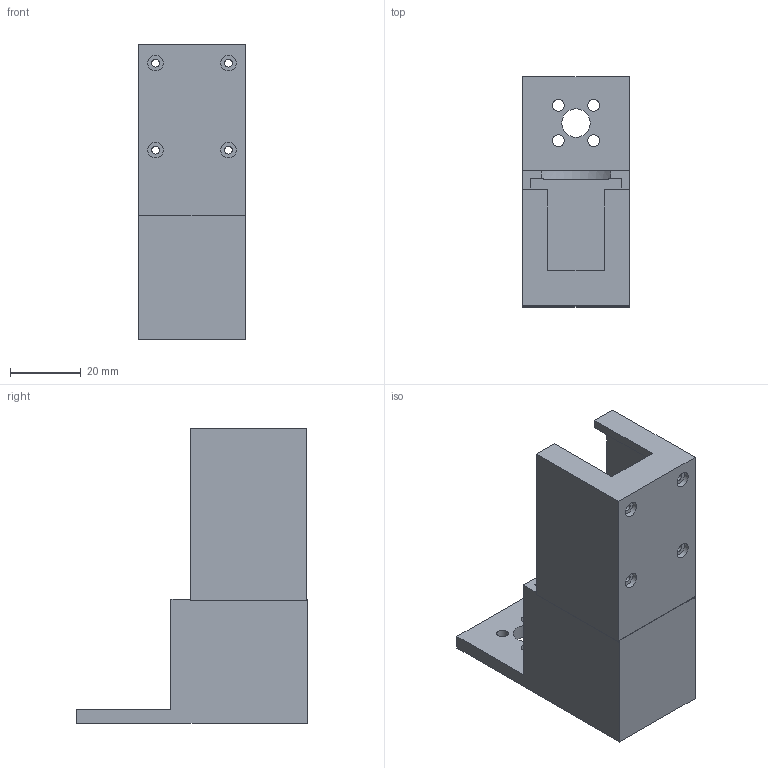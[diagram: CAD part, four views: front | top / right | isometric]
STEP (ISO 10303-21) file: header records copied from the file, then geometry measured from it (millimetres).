
FILE_DESCRIPTION(('Open CASCADE Model'),'2;1');
FILE_NAME('Open CASCADE Shape Model','2026-10-02T23:27:49',('Author'),( 'Open CASCADE'),'Open CASCADE STEP processor 7.9','Open CASCADE 7.9' ,'Unknown');
FILE_SCHEMA(('AUTOMOTIVE_DESIGN { 1 0 10303 214 1 1 1 1 }'));
Length unit declared in the file: millimetre
Products named in the file (1): Open CASCADE STEP translator 7.9 14
Bounding box: 30.4 x 64.85 x 83 mm (x, y, z)
Volume: 55637.4 mm3; surface area: 18815.8 mm2
Topology: 1 solids, 1 shells, 56 faces, 153 edges, 102 vertices
Faces by surface type: plane 41, cylinder 15
Full cylindrical faces by diameter (mm): 2.2 x4, 3.3 x4, 4.4 x4, 8 x1
Entity records: 3868 total; most frequent: CARTESIAN_POINT 828, DIRECTION 549, LINE 357, VECTOR 357, ORIENTED_EDGE 306, PCURVE 306, DEFINITIONAL_REPRESENTATION 306, EDGE_CURVE 153
